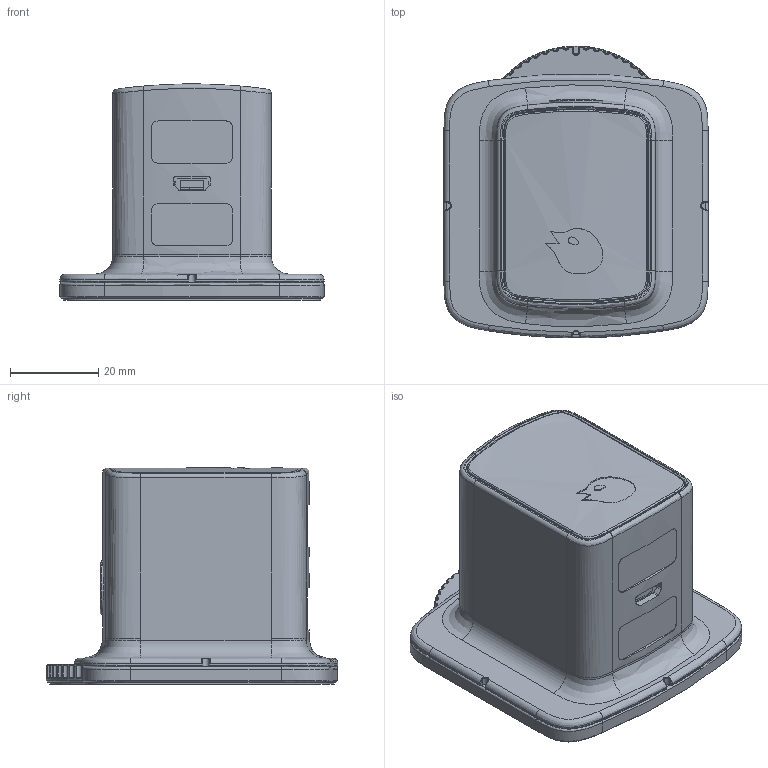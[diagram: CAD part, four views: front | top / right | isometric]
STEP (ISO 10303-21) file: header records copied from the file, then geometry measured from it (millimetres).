
FILE_DESCRIPTION (( 'STEP AP203' ), '1' );
FILE_NAME ('8252040-DSM - X2 Light - external geometry.STEP', '2025-08-27T14:23:55', ( '' ), ( '' ), 'SwSTEP 2.0', 'SolidWorks 2024', '' );
FILE_SCHEMA (( 'CONFIG_CONTROL_DESIGN' ));
Products named in the file (1): 8252040-DSM - X2 Light - external geometry
Bounding box: 60 x 66.3 x 49.1 mm (x, y, z)
Volume: 89850.4 mm3; surface area: 36964.6 mm2
Topology: 13 solids, 15 shells, 1311 faces, 3391 edges, 2127 vertices
Faces by surface type: cylinder 412, plane 370, bspline 279, torus 137, cone 112, sphere 1
Full cylindrical faces by diameter (mm): 2.454 x26, 2.459 x2, 2.85 x2, 3 x24, 3.03 x1, 3.15 x1, 3.3 x2, 4.087 x1, 4.108 x1, 5.275 x1, 5.3 x1, 5.6 x2, 5.8 x2, 5.85 x2, 6.5 x2, 7.35 x1, 8 x1, 8.01 x1, 10.015 x1, 10.6 x1, 11.015 x1, 11.6 x1, 12 x1, 12.2 x1, 12.5 x1, 12.6 x1, 13 x1, 14.5 x1, 15 x2, 45 x1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
Entity records: 51777 total; most frequent: CARTESIAN_POINT 22567, ORIENTED_EDGE 6428, DIRECTION 5390, EDGE_CURVE 3214, VERTEX_POINT 2109, AXIS2_PLACEMENT_3D 2105, EDGE_LOOP 1529, FACE_OUTER_BOUND 1400
